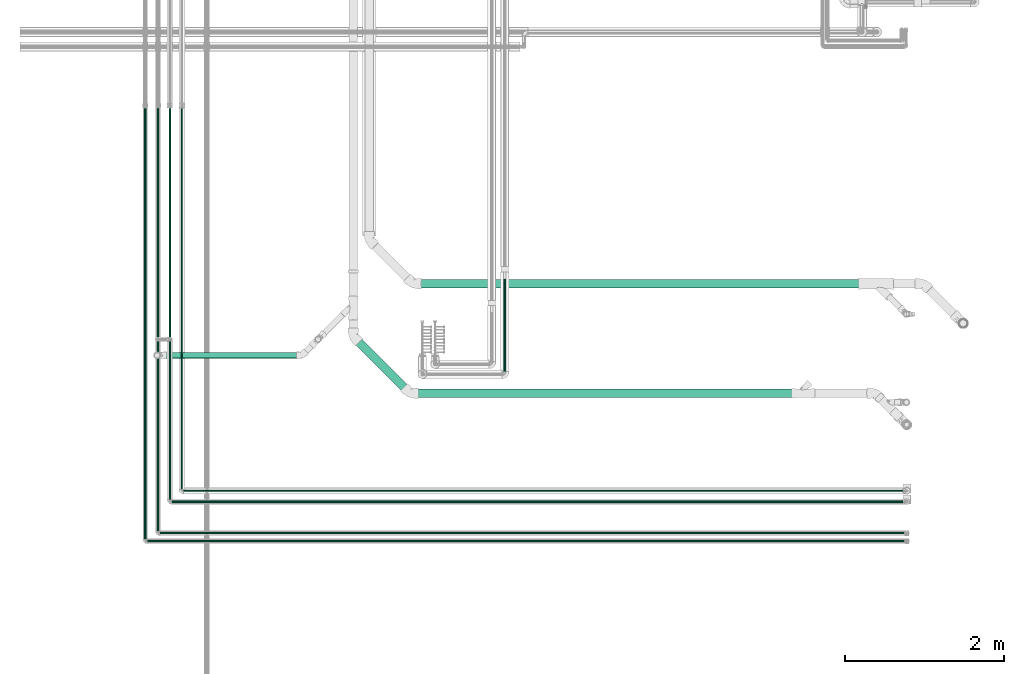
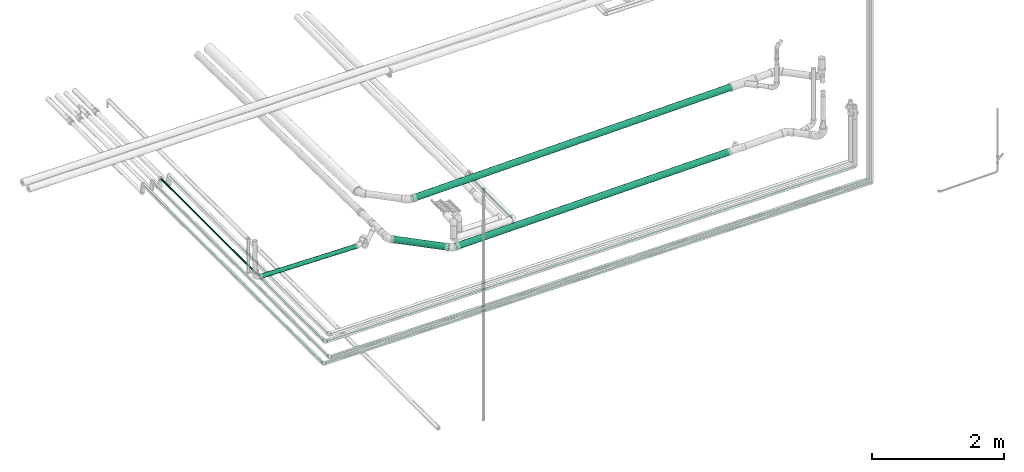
# One storey, part 24 of 83: 14 flow segments.
"""IFC2X3 building model written with IfcOpenShell, lengths in millimetres."""

from ifc_helpers import new_model, entity, si_unit, converted_unit, derived_unit, direction, frame, origin_with_axes, origin_2d_with_axis, place, context, subcontext, project, spatial, hollow_circle, extrude, source, transform, mapped, type_object, element, save


model = new_model("IFC2X3")

# Units and contexts
model_context = context("Model", 3, precision=0.01, world=frame((0.0, 4.29681676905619e-09, 0.0)), true_north=direction((4.01073788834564e-13, 1.0)))
plan_context = context("Plan", 3, precision=0.01, world=frame((0.0, 4.29681676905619e-09, 0.0)), true_north=direction((4.01073788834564e-13, 1.0)))
body_context = subcontext(model_context, "Body", "Model", "MODEL_VIEW")
ifc_project = project(units=[converted_unit("PLANEANGLEUNIT", "DEGREE", entity("IfcPositiveLengthMeasure", 0.0174532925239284), si_unit("PLANEANGLEUNIT", "RADIAN"), dimensions=[0, 0, 0, 0, 0, 0, 0]), si_unit("AREAUNIT", "SQUARE_METRE"), si_unit("LENGTHUNIT", "METRE", prefix="MILLI"), si_unit("MASSUNIT", "GRAM", prefix="KILO"), si_unit("POWERUNIT", "WATT"), si_unit("PRESSUREUNIT", "PASCAL"), si_unit("FORCEUNIT", "NEWTON", prefix="KILO"), si_unit("ELECTRICVOLTAGEUNIT", "VOLT"), si_unit("ELECTRICCURRENTUNIT", "AMPERE"), si_unit("THERMODYNAMICTEMPERATUREUNIT", "DEGREE_CELSIUS"), si_unit("TIMEUNIT", "SECOND"), si_unit("VOLUMEUNIT", "CUBIC_METRE"), derived_unit("LINEARVELOCITYUNIT", [(si_unit("LENGTHUNIT", "METRE"), 1), (si_unit("TIMEUNIT", "SECOND"), -1)]), derived_unit("VOLUMETRICFLOWRATEUNIT", [(si_unit("VOLUMEUNIT", "CUBIC_METRE"), 1), (si_unit("TIMEUNIT", "SECOND"), -1)]), derived_unit("THERMALTRANSMITTANCEUNIT", [(si_unit("POWERUNIT", "WATT"), 1), (si_unit("THERMODYNAMICTEMPERATUREUNIT", "KELVIN"), -1), (si_unit("AREAUNIT", "SQUARE_METRE"), -1)]), derived_unit("SOUNDPRESSUREUNIT", [(si_unit("PRESSUREUNIT", "PASCAL"), 1)])], contexts=[model_context, plan_context])

# Site, building, storey
site_placement = place(None, frame((0.0, -4.29681676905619e-09, 0.0), z_axis=(0.0, 0.0, 1.0), x_axis=(1.0, 0.0, 0.0)))
site = spatial("IfcSite", under=ifc_project, at=site_placement, Name="ENGM", CompositionType="ELEMENT")
building_placement = place(site_placement, frame((0.0, 4.29681676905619e-09, 0.0), z_axis=(0.0, 0.0, 1.0), x_axis=(1.0, 0.0, 0.0)))
building = spatial("IfcBuilding", under=site, at=building_placement, Name="TI", CompositionType="ELEMENT")
storey_placement = place(building_placement, frame((0.0, 0.0, 204000.0), z_axis=(0.0, 0.0, 1.0), x_axis=(1.0, 0.0, 0.0)))
storey = spatial("IfcBuildingStorey", under=building, at=storey_placement, Name="Nivå D", CompositionType="ELEMENT", Elevation=204000.0)

# Flow segments
pipe_segment_type_1 = type_object("IfcPipeSegmentType", Name="Stålrør normaltykke", PredefinedType="RIGIDSEGMENT")
shared_shape_1 = source(origin_with_axes(), body_context, "Body", "SweptSolid", [
    extrude(hollow_circle(Radius=16.9, WallThickness=2.0, at=origin_2d_with_axis()), frame((0.0, 0.0, 0.0), z_axis=(1.0, 0.0, 0.0), x_axis=(0.0, 1.0, 0.0)), (0.0, 0.0, 1.0), 1249.8),
])
flow_segment_1_placement = place(storey_placement, frame((604084.1909, 693269.40884, 6040.49622), z_axis=(0.0, 0.0, 1.0), x_axis=(0.0, 1.0, 0.0)))
element("IfcFlowSegment", 1, at=flow_segment_1_placement, inside=storey, type_object=pipe_segment_type_1, Name="Stålrør normaltykke", context=body_context, shape_type="MappedRepresentation", body=[
    mapped(shared_shape_1, transform((0.0, 0.0, 0.0), scale=1.0)),
])
pipe_segment_type_2 = type_object("IfcPipeSegmentType", Name="MA", PredefinedType="RIGIDSEGMENT")
shared_shape_2 = source(origin_with_axes(), body_context, "Body", "SweptSolid", [
    extrude(hollow_circle(Radius=55.0, WallThickness=2.0, at=origin_2d_with_axis()), frame((0.0, 0.0, 0.0), z_axis=(1.0, 0.0, 0.0), x_axis=(0.0, 1.0, 0.0)), (0.0, 0.0, 1.0), 907.5),
])
flow_segment_2_placement = place(storey_placement, frame((602217.82932, 693674.86827, 6056.23295000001), z_axis=(-0.70700897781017, -0.707170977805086, -0.00689299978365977), x_axis=(0.70700836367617, -0.7070088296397, 0.0166639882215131)))
element("IfcFlowSegment", 2, at=flow_segment_2_placement, inside=storey, type_object=pipe_segment_type_2, Name="MA", context=body_context, shape_type="MappedRepresentation", body=[
    mapped(shared_shape_2, transform((0.0, 0.0, 0.0), scale=1.0)),
])
pipe_segment_type_3 = type_object("IfcPipeSegmentType", Name="Super-MA", PredefinedType="RIGIDSEGMENT")
shared_shape_3 = source(origin_with_axes(), body_context, "Body", "SweptSolid", [
    extrude(hollow_circle(Radius=55.0, WallThickness=2.0, at=origin_2d_with_axis()), frame((0.0, 0.0, 0.0), z_axis=(1.0, 0.0, 0.0), x_axis=(0.0, 1.0, 0.0)), (0.0, 0.0, 1.0), 5570.1),
])
flow_segment_3_placement = place(storey_placement, frame((602982.30508, 694372.51426, 6112.52147000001), z_axis=(-9.2000030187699e-05, -0.999989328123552, 0.00461900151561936), x_axis=(0.999800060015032, 3.7992009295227e-07, 0.0199959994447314)))
element("IfcFlowSegment", 3, at=flow_segment_3_placement, inside=storey, type_object=pipe_segment_type_3, Name="Super-MA", context=body_context, shape_type="MappedRepresentation", body=[
    mapped(shared_shape_3, transform((0.0, 0.0, 0.0), scale=1.0)),
])
shared_shape_4 = source(origin_with_axes(), body_context, "Body", "SweptSolid", [
    extrude(hollow_circle(Radius=55.0, WallThickness=2.0, at=origin_2d_with_axis()), frame((0.0, 0.0, 0.0), z_axis=(1.0, 0.0, 0.0), x_axis=(0.0, 1.0, 0.0)), (0.0, 0.0, 1.0), 4785.4),
])
flow_segment_4_placement = place(storey_placement, frame((602944.9786, 692997.82372, 6073.03417999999), z_axis=(-0.000115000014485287, -0.999976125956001, 0.00690900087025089), x_axis=(0.9998610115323, 2.03257913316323e-07, 0.0166720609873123)))
element("IfcFlowSegment", 4, at=flow_segment_4_placement, inside=storey, type_object=pipe_segment_type_2, Name="MA", context=body_context, shape_type="MappedRepresentation", body=[
    mapped(shared_shape_4, transform((0.0, 0.0, 0.0), scale=1.0)),
])
shared_shape_5 = source(origin_with_axes(), body_context, "Body", "SweptSolid", [
    extrude(hollow_circle(Radius=13.3, WallThickness=2.0, at=origin_2d_with_axis()), frame((0.0, 0.0, 0.0), z_axis=(1.0, 0.0, 0.0), x_axis=(0.0, 1.0, 0.0)), (0.0, 0.0, 1.0), 9506.4),
])
flow_segment_5_placement = place(storey_placement, frame((599598.7743, 691141.97914, 6220.0), z_axis=(0.0, 0.0, 1.0), x_axis=(1.0, 0.0, 0.0)))
element("IfcFlowSegment", 5, at=flow_segment_5_placement, inside=storey, type_object=pipe_segment_type_1, Name="Stålrør normaltykke", context=body_context, shape_type="MappedRepresentation", body=[
    mapped(shared_shape_5, transform((0.0, 0.0, 0.0), scale=1.0)),
])
shared_shape_6 = source(origin_with_axes(), body_context, "Body", "SweptSolid", [
    extrude(hollow_circle(Radius=13.3, WallThickness=2.0, at=origin_2d_with_axis()), frame((0.0, 0.0, 0.0), z_axis=(1.0, 0.0, 0.0), x_axis=(0.0, 1.0, 0.0)), (0.0, 0.0, 1.0), 9343.9),
])
flow_segment_6_placement = place(storey_placement, frame((599759.0743, 691241.97914, 6220.00010999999), z_axis=(0.0, 0.0, 1.0), x_axis=(1.0, 0.0, 0.0)))
element("IfcFlowSegment", 6, at=flow_segment_6_placement, inside=storey, type_object=pipe_segment_type_1, Name="Stålrør normaltykke", context=body_context, shape_type="MappedRepresentation", body=[
    mapped(shared_shape_6, transform((0.0, 0.0, 0.0), scale=1.0)),
])
pipe_segment_type_4 = type_object("IfcPipeSegmentType", Name="Kobberrør", PredefinedType="RIGIDSEGMENT")
shared_shape_7 = source(origin_with_axes(), body_context, "Body", "SweptSolid", [
    extrude(hollow_circle(Radius=9.0, WallThickness=2.0, at=origin_2d_with_axis()), frame((0.0, 0.0, 0.0), z_axis=(1.0, 0.0, 0.0), x_axis=(0.0, 1.0, 0.0)), (0.0, 0.0, 1.0), 9064.0),
])
flow_segment_7_placement = place(storey_placement, frame((600049.9743, 691772.72914, 6220.0), z_axis=(0.0, 0.0, 1.0), x_axis=(1.0, 0.0, 0.0)))
element("IfcFlowSegment", 7, at=flow_segment_7_placement, inside=storey, type_object=pipe_segment_type_4, Name="Kobberrør", context=body_context, shape_type="MappedRepresentation", body=[
    mapped(shared_shape_7, transform((0.0, 0.0, 0.0), scale=1.0)),
])
shared_shape_8 = source(origin_with_axes(), body_context, "Body", "SweptSolid", [
    extrude(hollow_circle(Radius=14.0, WallThickness=2.0, at=origin_2d_with_axis()), frame((0.0, 0.0, 0.0), z_axis=(1.0, 0.0, 0.0), x_axis=(0.0, 1.0, 0.0)), (0.0, 0.0, 1.0), 9194.0),
])
flow_segment_8_placement = place(storey_placement, frame((599909.50429, 691635.97914, 6220.0), z_axis=(0.0, 0.0, 1.0), x_axis=(1.0, 0.0, 0.0)))
element("IfcFlowSegment", 8, at=flow_segment_8_placement, inside=storey, type_object=pipe_segment_type_4, Name="Kobberrør", context=body_context, shape_type="MappedRepresentation", body=[
    mapped(shared_shape_8, transform((0.0, 0.0, 0.0), scale=1.0)),
])
shared_shape_9 = source(origin_with_axes(), body_context, "Body", "SweptSolid", [
    extrude(hollow_circle(Radius=9.0, WallThickness=2.0, at=origin_2d_with_axis()), frame((0.0, 0.0, 0.0), z_axis=(1.0, 0.0, 0.0), x_axis=(0.0, 1.0, 0.0)), (0.0, 0.0, 1.0), 4799.0),
])
flow_segment_9_placement = place(storey_placement, frame((600031.9743, 691790.72914, 6220.0), z_axis=(0.0, 0.0, 1.0), x_axis=(0.0, 1.0, 0.0)))
element("IfcFlowSegment", 9, at=flow_segment_9_placement, inside=storey, type_object=pipe_segment_type_4, Name="Kobberrør", context=body_context, shape_type="MappedRepresentation", body=[
    mapped(shared_shape_9, transform((0.0, 0.0, 0.0), scale=1.0)),
])
shared_shape_10 = source(origin_with_axes(), body_context, "Body", "SweptSolid", [
    extrude(hollow_circle(Radius=14.0, WallThickness=2.0, at=origin_2d_with_axis()), frame((0.0, 0.0, 0.0), z_axis=(1.0, 0.0, 0.0), x_axis=(0.0, 1.0, 0.0)), (0.0, 0.0, 1.0), 2889.0),
])
flow_segment_10_placement = place(storey_placement, frame((599881.50429, 693690.702, 6220.0), z_axis=(0.0, 0.0, 1.0), x_axis=(0.0, 1.0, 0.0)))
element("IfcFlowSegment", 10, at=flow_segment_10_placement, inside=storey, type_object=pipe_segment_type_4, Name="Kobberrør", context=body_context, shape_type="MappedRepresentation", body=[
    mapped(shared_shape_10, transform((0.0, 0.0, 0.0), scale=1.0)),
])
shared_shape_11 = source(origin_with_axes(), body_context, "Body", "SweptSolid", [
    extrude(hollow_circle(Radius=13.3, WallThickness=2.0, at=origin_2d_with_axis()), frame((0.0, 0.0, 0.0), z_axis=(1.0, 0.0, 0.0), x_axis=(0.0, 1.0, 0.0)), (0.0, 0.0, 1.0), 5312.1),
])
flow_segment_11_placement = place(storey_placement, frame((599732.2743, 691268.77914, 6220.0), z_axis=(0.0, 0.0, 1.0), x_axis=(0.0, 1.0, 0.0)))
element("IfcFlowSegment", 11, at=flow_segment_11_placement, inside=storey, type_object=pipe_segment_type_1, Name="Stålrør normaltykke", context=body_context, shape_type="MappedRepresentation", body=[
    mapped(shared_shape_11, transform((0.0, 0.0, 0.0), scale=1.0)),
])
shared_shape_12 = source(origin_with_axes(), body_context, "Body", "SweptSolid", [
    extrude(hollow_circle(Radius=13.3, WallThickness=2.0, at=origin_2d_with_axis()), frame((0.0, 0.0, 0.0), z_axis=(1.0, 0.0, 0.0), x_axis=(0.0, 1.0, 0.0)), (0.0, 0.0, 1.0), 5412.2),
])
flow_segment_12_placement = place(storey_placement, frame((599571.9743, 691168.77914, 6220.0), z_axis=(0.0, 0.0, 1.0), x_axis=(0.0, 1.0, 0.0)))
element("IfcFlowSegment", 12, at=flow_segment_12_placement, inside=storey, type_object=pipe_segment_type_1, Name="Stålrør normaltykke", context=body_context, shape_type="MappedRepresentation", body=[
    mapped(shared_shape_12, transform((0.0, 0.0, 0.0), scale=1.0)),
])
shared_shape_13 = source(origin_with_axes(), body_context, "Body", "SweptSolid", [
    extrude(hollow_circle(Radius=14.0, WallThickness=2.0, at=origin_2d_with_axis()), frame((0.0, 0.0, 0.0), z_axis=(1.0, 0.0, 0.0), x_axis=(0.0, 1.0, 0.0)), (0.0, 0.0, 1.0), 1996.7),
])
flow_segment_13_placement = place(storey_placement, frame((599881.50429, 691663.97914, 6220.0), z_axis=(0.0, 0.0, 1.0), x_axis=(0.0, 1.0, 0.0)))
element("IfcFlowSegment", 13, at=flow_segment_13_placement, inside=storey, type_object=pipe_segment_type_4, Name="Kobberrør", context=body_context, shape_type="MappedRepresentation", body=[
    mapped(shared_shape_13, transform((0.0, 0.0, 0.0), scale=1.0)),
])
shared_shape_14 = source(origin_with_axes(), body_context, "Body", "SweptSolid", [
    extrude(hollow_circle(Radius=37.5, WallThickness=2.0, at=origin_2d_with_axis()), frame((0.0, 0.0, 0.0), z_axis=(1.0, 0.0, 0.0), x_axis=(0.0, 1.0, 0.0)), (0.0, 0.0, 1.0), 1704.7),
])
flow_segment_14_placement = place(storey_placement, frame((599800.98078, 693473.102, 6330.54934), z_axis=(0.0166640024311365, 0.0, 0.999861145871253), x_axis=(0.999861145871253, 0.0, -0.0166640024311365)))
element("IfcFlowSegment", 14, at=flow_segment_14_placement, inside=storey, type_object=pipe_segment_type_2, Name="MA", context=body_context, shape_type="MappedRepresentation", body=[
    mapped(shared_shape_14, transform((0.0, 0.0, 0.0), scale=1.0)),
])

save(model, "model.ifc")
